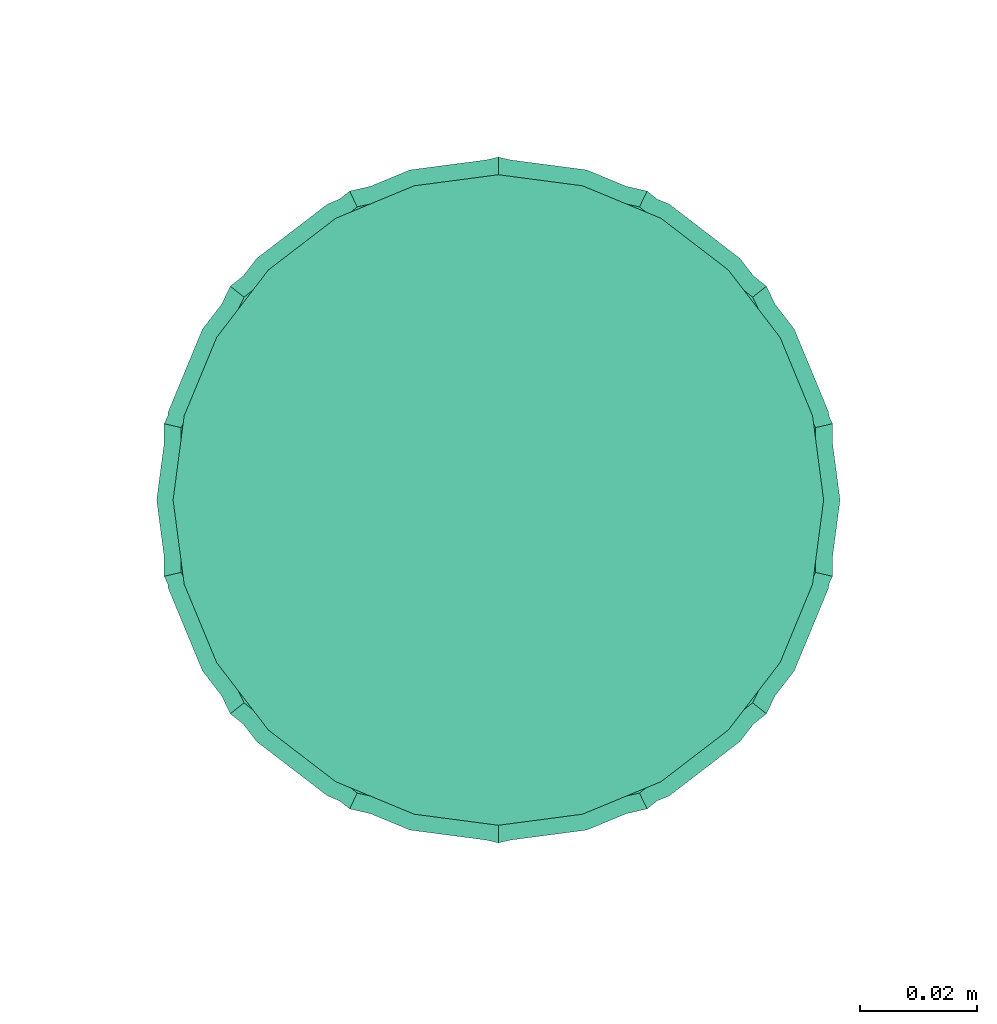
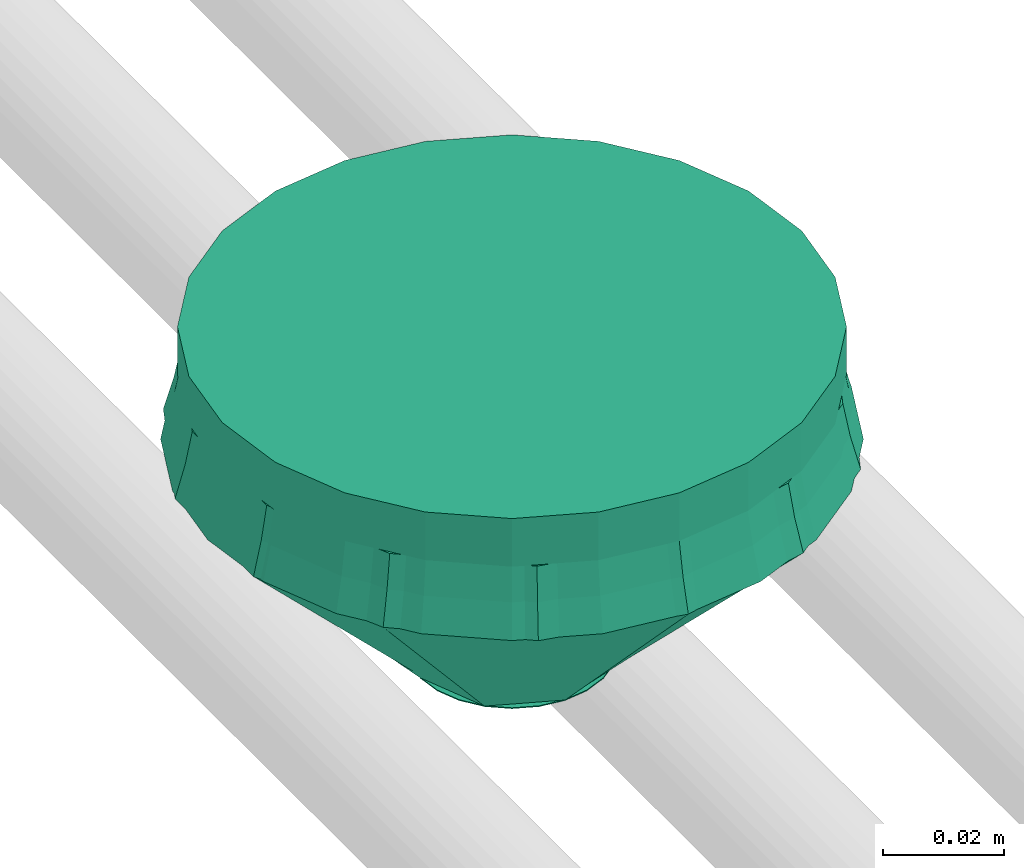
# One storey, part 3 of 51: 1 distribution control element.
"""IFC2X3 building model written with IfcOpenShell, lengths in millimetres."""

from ifc_helpers import new_model, entity, si_unit, converted_unit, derived_unit, direction, frame, origin_with_axes, place, context, subcontext, project, spatial, open_shell, surface_model, source, transform, mapped, type_object, element, save


model = new_model("IFC2X3")

# Units and contexts
model_context = context("Model", 3, precision=0.01, world=frame((0.0, 4.29681676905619e-09, 0.0)), true_north=direction((4.01073788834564e-13, 1.0)))
plan_context = context("Plan", 3, precision=0.01, world=frame((0.0, 4.29681676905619e-09, 0.0)), true_north=direction((4.01073788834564e-13, 1.0)))
body_context = subcontext(model_context, "Body", "Model", "MODEL_VIEW")
ifc_project = project(units=[converted_unit("PLANEANGLEUNIT", "DEGREE", entity("IfcPositiveLengthMeasure", 0.0174532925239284), si_unit("PLANEANGLEUNIT", "RADIAN"), dimensions=[0, 0, 0, 0, 0, 0, 0]), si_unit("AREAUNIT", "SQUARE_METRE"), si_unit("LENGTHUNIT", "METRE", prefix="MILLI"), si_unit("MASSUNIT", "GRAM", prefix="KILO"), si_unit("POWERUNIT", "WATT"), si_unit("PRESSUREUNIT", "PASCAL"), si_unit("FORCEUNIT", "NEWTON", prefix="KILO"), si_unit("ELECTRICVOLTAGEUNIT", "VOLT"), si_unit("ELECTRICCURRENTUNIT", "AMPERE"), si_unit("THERMODYNAMICTEMPERATUREUNIT", "DEGREE_CELSIUS"), si_unit("TIMEUNIT", "SECOND"), si_unit("VOLUMEUNIT", "CUBIC_METRE"), derived_unit("LINEARVELOCITYUNIT", [(si_unit("LENGTHUNIT", "METRE"), 1), (si_unit("TIMEUNIT", "SECOND"), -1)]), derived_unit("VOLUMETRICFLOWRATEUNIT", [(si_unit("VOLUMEUNIT", "CUBIC_METRE"), 1), (si_unit("TIMEUNIT", "SECOND"), -1)]), derived_unit("THERMALTRANSMITTANCEUNIT", [(si_unit("POWERUNIT", "WATT"), 1), (si_unit("THERMODYNAMICTEMPERATUREUNIT", "KELVIN"), -1), (si_unit("AREAUNIT", "SQUARE_METRE"), -1)]), derived_unit("SOUNDPRESSUREUNIT", [(si_unit("PRESSUREUNIT", "PASCAL"), 1)])], contexts=[model_context, plan_context])

# Site, building, storey
site_placement = place(None, frame((0.0, -4.29681676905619e-09, 0.0), z_axis=(0.0, 0.0, 1.0), x_axis=(1.0, 0.0, 0.0)))
site = spatial("IfcSite", under=ifc_project, at=site_placement, Name="ENGM", CompositionType="ELEMENT")
building_placement = place(site_placement, frame((0.0, 4.29681676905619e-09, 0.0), z_axis=(0.0, 0.0, 1.0), x_axis=(1.0, 0.0, 0.0)))
building = spatial("IfcBuilding", under=site, at=building_placement, Name="TI", CompositionType="ELEMENT")
storey_placement = place(building_placement, frame((0.0, 0.0, 210900.0), z_axis=(0.0, 0.0, 1.0), x_axis=(1.0, 0.0, 0.0)))
storey = spatial("IfcBuildingStorey", under=building, at=storey_placement, Name="Nivå F", CompositionType="ELEMENT", Elevation=210900.0)

# Distribution control element
alarm_type = type_object("IfcAlarmType", Name="Standard", PredefinedType="NOTDEFINED")
shared_shape = source(origin_with_axes(), body_context, "Body", "SurfaceModel", [
    surface_model("IfcShellBasedSurfaceModel", [(8.775, -15.19875, -64.9), (-12.40972, -12.40972, -64.9), (4.54227, -16.952, -64.9), (15.19875, -8.775, -64.9), (12.40972, -12.40972, -64.9), (16.952, -4.54227, -64.9), (-4.54227, 16.952, -64.9), (-16.952, -4.54227, -64.9), (0.0, -17.55, -64.9), (-8.775, -15.19875, -64.9), (-4.54227, -16.952, -64.9), (-15.19875, -8.775, -64.9), (17.55, 0.0, -64.9), (15.19875, 8.775, -64.9), (16.952, 4.54227, -64.9), (0.0, 17.55, -64.9), (12.40972, 12.40972, -64.9), (4.54227, 16.952, -64.9), (8.775, 15.19875, -64.9), (-17.55, 0.0, -64.9), (-15.19875, 8.775, -64.9), (-16.952, 4.54227, -64.9), (-12.40972, 12.40972, -64.9), (-8.775, 15.19875, -64.9), (16.952, 4.54227, -65.1), (0.0, 17.55, -65.1), (4.54227, 16.952, -65.1), (12.40972, 12.40972, -65.1), (8.775, 15.19875, -65.1), (15.19875, 8.775, -65.1), (-12.40972, 12.40972, -65.1), (-4.54227, 16.952, -65.1), (-8.775, 15.19875, -65.1), (-15.19875, 8.775, -65.1), (-17.55, 0.0, -65.1), (-16.952, 4.54227, -65.1), (-16.952, -4.54227, -65.1), (16.952, -4.54227, -65.1), (8.775, -15.19875, -65.1), (15.19875, -8.775, -65.1), (12.40972, -12.40972, -65.1), (-12.40972, -12.40972, -65.1), (4.54227, -16.952, -65.1), (-15.19875, -8.775, -65.1), (-8.775, -15.19875, -65.1), (0.0, -17.55, -65.1), (-4.54227, -16.952, -65.1), (17.55, 0.0, -65.1), (-36.47415, 45.73714, -22.75), (-52.70668, 25.3822, -22.75), (-58.5, 0.0, -22.75), (52.70668, 25.3822, -22.75), (13.01748, 57.03328, -22.75), (-13.01748, 57.03328, -22.75), (36.47415, 45.73714, -22.75), (-52.70668, -25.3822, -22.75), (-36.47415, -45.73714, -22.75), (-13.01748, -57.03328, -22.75), (36.47415, -45.73714, -22.75), (52.70668, -25.3822, -22.75), (58.5, 0.0, -22.75), (13.01748, -57.03328, -22.75), (0.0, 17.55, -65.0), (12.40972, 12.40972, -65.0), (-12.40972, 12.40972, -65.0), (-12.40972, -12.40972, -65.0), (-17.55, 0.0, -65.0), (17.55, 0.0, -65.0), (12.40972, -12.40972, -65.0), (0.0, -17.55, -65.0), (-44.59042, -35.55967, -22.75), (-13.69479, -9.30729, -65.0), (55.60334, -12.6911, -22.75), (14.97986, -6.20486, -65.0), (16.26493, -3.10243, -65.0), (-9.30729, -13.69479, -65.0), (-6.20486, -14.97986, -65.0), (-24.74581, -51.38521, -22.75), (-14.97986, -6.20486, -65.0), (24.74581, -51.38521, -22.75), (9.30729, -13.69479, -65.0), (-55.60334, -12.6911, -22.75), (-16.26493, -3.10243, -65.0), (-3.10243, -16.26493, -65.0), (3.10243, -16.26493, -65.0), (0.0, -57.03328, -22.75), (44.59042, -35.55967, -22.75), (13.69479, -9.30729, -65.0), (6.20486, -14.97986, -65.0), (44.59042, 35.55967, -22.75), (13.69479, 9.30729, -65.0), (-55.60334, 12.6911, -22.75), (-14.97986, 6.20486, -65.0), (-16.26493, 3.10243, -65.0), (9.30729, 13.69479, -65.0), (6.20486, 14.97986, -65.0), (24.74581, 51.38521, -22.75), (14.97986, 6.20486, -65.0), (-24.74581, 51.38521, -22.75), (-9.30729, 13.69479, -65.0), (55.60334, 12.6911, -22.75), (16.26493, 3.10243, -65.0), (3.10243, 16.26493, -65.0), (-3.10243, 16.26493, -65.0), (0.0, 57.03328, -22.75), (-44.59042, 35.55967, -22.75), (-13.69479, 9.30729, -65.0), (-6.20486, 14.97986, -65.0), (-28.275, 48.97374, -16.25), (-32.41056, 45.80041, -16.25), (-13.88456, 54.72206, -16.25), (-49.79102, 26.30191, -16.25), (-39.98689, 39.98689, -16.25), (-48.97374, 28.275, -16.25), (-37.1285, 42.18021, -16.25), (-35.38305, 44.36894, -16.25), (-56.2774, 2.07059, -16.25), (-56.75, 0.0, -16.25), (-56.55, 0.0, -16.25), (-51.91976, 21.16268, -16.25), (-51.12998, 24.6229, -16.25), (-54.62311, 14.63622, -16.25), (28.275, 48.97374, -16.25), (14.63622, 54.62311, -16.25), (13.88456, 54.72206, -16.25), (54.62311, -14.63622, -16.25), (56.2774, -2.07059, -16.25), (51.91976, -21.16268, -16.25), (12.62806, 55.32716, -16.25), (9.2884, 55.32716, -16.25), (49.79102, 26.30191, -16.25), (39.98689, 39.98689, -16.25), (37.1285, 42.18021, -16.25), (56.55, 0.0, -16.25), (56.75, 0.0, -16.25), (56.2774, 2.07059, -16.25), (39.98689, -39.98689, -16.25), (49.79102, -26.30191, -16.25), (37.1285, -42.18021, -16.25), (35.38305, 44.36894, -16.25), (32.41056, 45.80041, -16.25), (35.38305, -44.36894, -16.25), (32.41056, -45.80041, -16.25), (-56.2774, -2.07059, -16.25), (-49.79102, -26.30191, -16.25), (-51.91976, -21.16268, -16.25), (-51.12998, -24.6229, -16.25), (-37.1285, -42.18021, -16.25), (-35.38305, -44.36894, -16.25), (-32.41056, -45.80041, -16.25), (-13.88456, -54.72206, -16.25), (-28.275, -48.97374, -16.25), (-14.63622, -54.62311, -16.25), (51.12998, -24.6229, -16.25), (-39.98689, -39.98689, -16.25), (-48.97374, -28.275, -16.25), (-9.2884, 55.32716, -16.25), (-12.62806, 55.32716, -16.25), (28.275, -48.97374, -16.25), (13.88456, -54.72206, -16.25), (14.63622, -54.62311, -16.25), (48.97374, -28.275, -16.25), (12.62806, -55.32716, -16.25), (9.2884, -55.32716, -16.25), (0.0, -56.55, -16.25), (-9.2884, -55.32716, -16.25), (-12.62806, -55.32716, -16.25), (-54.62311, -14.63622, -16.25), (-14.63622, 54.62311, -16.25), (0.0, 56.55, -16.25), (48.97374, 28.275, -16.25), (51.91976, 21.16268, -16.25), (51.12998, 24.6229, -16.25), (54.62311, 14.63622, -16.25), (29.15, 50.48928, -22.75), (33.43697, 47.19977, -22.75), (14.29509, 56.41801, -22.75), (51.34019, 27.09572, -22.75), (41.22432, 41.22432, -22.75), (50.48928, 29.15, -22.75), (58.0274, 2.07059, -22.75), (58.3, 0.0, -22.75), (38.25759, 43.50078, -22.75), (-33.43697, 47.19977, -22.75), (-38.25759, 43.50078, -22.75), (56.31348, 15.08915, -22.75), (53.51269, 21.85086, -22.75), (-14.29509, -56.41801, -22.75), (-9.62167, -57.03328, -22.75), (-29.15, 50.48928, -22.75), (-15.08915, 56.31348, -22.75), (-14.29509, 56.41801, -22.75), (-56.31348, -15.08915, -22.75), (-58.0274, -2.07059, -22.75), (-53.51269, -21.85086, -22.75), (-9.62167, 57.03328, -22.75), (-51.34019, 27.09572, -22.75), (-41.22432, 41.22432, -22.75), (-41.22432, -41.22432, -22.75), (-51.34019, -27.09572, -22.75), (-38.25759, -43.50078, -22.75), (-58.3, 0.0, -22.75), (-58.0274, 2.07059, -22.75), (58.0274, -2.07059, -22.75), (-33.43697, -47.19977, -22.75), (51.34019, -27.09572, -22.75), (53.51269, -21.85086, -22.75), (41.22432, -41.22432, -22.75), (38.25759, -43.50078, -22.75), (29.15, -50.48928, -22.75), (15.08915, -56.31348, -22.75), (14.29509, -56.41801, -22.75), (9.62167, -57.03328, -22.75), (33.43697, -47.19977, -22.75), (50.48928, -29.15, -22.75), (9.62167, 57.03328, -22.75), (-29.15, -50.48928, -22.75), (-15.08915, -56.31348, -22.75), (-50.48928, -29.15, -22.75), (0.0, -58.3, -22.75), (56.31348, -15.08915, -22.75), (15.08915, 56.31348, -22.75), (0.0, 58.3, -22.75), (-50.48928, 29.15, -22.75), (-53.51269, 21.85086, -22.75), (-56.31348, 15.08915, -22.75), (53.15004, -15.77246, -16.25), (43.25652, -34.49592, -16.25), (-54.78902, -16.25884, -22.75), (-53.93999, -12.31145, -16.25), (24.00555, -49.84805, -16.25), (0.0, -55.32716, -16.25), (-24.00555, -49.84805, -16.25), (-43.25652, -34.49592, -16.25), (-53.15004, 15.77246, -16.25), (-43.25652, 34.49592, -16.25), (54.78902, 16.25884, -22.75), (53.93999, 12.31145, -16.25), (-24.00555, 49.84805, -16.25), (0.0, 55.32716, -16.25), (24.00555, 49.84805, -16.25), (43.25652, 34.49592, -16.25), (-27.65, 47.8912, -9.75), (-31.6774, 44.80087, -9.75), (-13.59132, 53.51067, -9.75), (-48.68446, 25.73491, -9.75), (-39.103, 39.103, -9.75), (-47.8912, 27.65, -9.75), (-34.60368, 43.39165, -9.75), (-36.322, 41.23694, -9.75), (-55.0274, 2.07059, -9.75), (-55.5, 0.0, -9.75), (-55.3, 0.0, -9.75), (-50.00377, 24.08055, -9.75), (-50.78195, 20.67112, -9.75), (-53.4157, 14.31269, -9.75), (27.65, 47.8912, -9.75), (14.31269, 53.4157, -9.75), (13.59132, 53.51067, -9.75), (53.4157, -14.31269, -9.75), (55.0274, -2.07059, -9.75), (50.78195, -20.67112, -9.75), (9.05035, 54.1085, -9.75), (12.34991, 54.1085, -9.75), (48.68446, 25.73491, -9.75), (39.103, 39.103, -9.75), (36.322, 41.23694, -9.75), (39.103, -39.103, -9.75), (48.68446, -25.73491, -9.75), (36.322, -41.23694, -9.75), (34.60368, 43.39165, -9.75), (31.6774, 44.80087, -9.75), (55.0274, 2.07059, -9.75), (55.3, 0.0, -9.75), (55.5, 0.0, -9.75), (34.60368, -43.39165, -9.75), (31.6774, -44.80087, -9.75), (-55.0274, -2.07059, -9.75), (-48.68446, -25.73491, -9.75), (-50.78195, -20.67112, -9.75), (-50.00377, -24.08055, -9.75), (-12.34991, -54.1085, -9.75), (-9.05035, -54.1085, -9.75), (-13.59132, -53.51067, -9.75), (-27.65, -47.8912, -9.75), (-14.31269, -53.4157, -9.75), (50.00377, -24.08055, -9.75), (-31.6774, -44.80087, -9.75), (-39.103, -39.103, -9.75), (-36.322, -41.23694, -9.75), (-47.8912, -27.65, -9.75), (-9.05035, 54.1085, -9.75), (-12.34991, 54.1085, -9.75), (27.65, -47.8912, -9.75), (13.59132, -53.51067, -9.75), (14.31269, -53.4157, -9.75), (47.8912, -27.65, -9.75), (0.0, -55.3, -9.75), (9.05035, -54.1085, -9.75), (12.34991, -54.1085, -9.75), (-34.60368, -43.39165, -9.75), (-53.4157, -14.31269, -9.75), (-14.31269, 53.4157, -9.75), (0.0, 55.3, -9.75), (47.8912, 27.65, -9.75), (50.78195, 20.67112, -9.75), (50.00377, 24.08055, -9.75), (53.4157, 14.31269, -9.75), (51.93259, -15.62982, -9.75), (42.30373, -33.7361, -9.75), (-53.10225, -15.98184, -16.25), (-52.75189, -12.04027, -9.75), (23.4768, -48.75007, -9.75), (53.93999, -12.31145, -16.25), (0.0, -54.1085, -9.75), (-23.4768, -48.75007, -9.75), (-42.30373, -33.7361, -9.75), (-51.93259, 15.62982, -9.75), (-42.30373, 33.7361, -9.75), (53.10225, 15.98184, -16.25), (52.75189, 12.04027, -9.75), (-23.4768, 48.75007, -9.75), (-53.93999, 12.31145, -16.25), (0.0, 54.1085, -9.75), (23.4768, 48.75007, -9.75), (42.30373, 33.7361, -9.75), (14.36446, -53.60888, 0.0), (27.75, -48.06441, 0.0), (39.24443, -39.24443, 0.0), (0.0, -55.5, 0.0), (48.06441, -27.75, 0.0), (53.60888, -14.36446, 0.0), (55.5, 0.0, 0.0), (-27.75, -48.06441, 0.0), (-14.36446, -53.60888, 0.0), (-48.06441, -27.75, 0.0), (-39.24443, -39.24443, 0.0), (-53.60888, -14.36446, 0.0), (48.06441, 27.75, 0.0), (14.36446, 53.60888, 0.0), (39.24443, 39.24443, 0.0), (0.0, 55.5, 0.0), (27.75, 48.06441, 0.0), (-27.75, 48.06441, 0.0), (-55.5, 0.0, 0.0), (-48.06441, 27.75, 0.0), (-53.60888, 14.36446, 0.0), (-39.24443, 39.24443, 0.0), (-14.36446, 53.60888, 0.0), (53.60888, 14.36446, 0.0), (14.36446, 53.60888, -9.75), (-27.75, 48.06441, -9.75), (0.0, 55.5, -9.75), (39.24443, 39.24443, -9.75), (27.75, 48.06441, -9.75), (48.06441, 27.75, -9.75), (53.60888, 14.36446, -9.75), (-48.06441, 27.75, -9.75), (-39.24443, 39.24443, -9.75), (-14.36446, 53.60888, -9.75), (-53.60888, 14.36446, -9.75), (53.60888, -14.36446, -9.75), (48.06441, -27.75, -9.75), (-53.60888, -14.36446, -9.75), (39.24443, -39.24443, -9.75), (27.75, -48.06441, -9.75), (14.36446, -53.60888, -9.75), (-27.75, -48.06441, -9.75), (-48.06441, -27.75, -9.75), (-39.24443, -39.24443, -9.75), (0.0, -55.5, -9.75), (-14.36446, -53.60888, -9.75)], [open_shell([[[0, 1, 2]], [[3, 0, 4]], [[0, 5, 1]], [[5, 0, 3]], [[5, 6, 7]], [[8, 9, 10]], [[9, 8, 1]], [[1, 7, 11]], [[1, 8, 2]], [[5, 7, 1]], [[5, 12, 6]], [[13, 6, 14]], [[15, 13, 16]], [[17, 15, 16]], [[17, 16, 18]], [[6, 13, 15]], [[19, 20, 21]], [[19, 7, 20]], [[22, 6, 23]], [[7, 22, 20]], [[6, 22, 7]], [[12, 14, 6]], [[24, 25, 26]], [[27, 26, 28]], [[29, 24, 26]], [[29, 26, 27]], [[25, 24, 30]], [[31, 30, 32]], [[31, 25, 30]], [[33, 34, 35]], [[36, 34, 33]], [[33, 30, 36]], [[30, 24, 37]], [[36, 30, 37]], [[38, 37, 39]], [[36, 37, 38]], [[38, 39, 40]], [[41, 38, 42]], [[36, 41, 43]], [[36, 38, 41]], [[44, 45, 46]], [[45, 44, 41]], [[42, 45, 41]], [[37, 24, 47]], [[36, 7, 34]], [[43, 11, 36]], [[9, 41, 44]], [[43, 41, 1]], [[10, 44, 46]], [[36, 11, 7]], [[7, 19, 34]], [[10, 9, 44]], [[1, 41, 9]], [[1, 11, 43]], [[8, 10, 46]], [[46, 45, 8]], [[42, 2, 45]], [[38, 0, 42]], [[3, 40, 39]], [[38, 40, 4]], [[5, 39, 37]], [[38, 4, 0]], [[0, 2, 42]], [[12, 5, 37]], [[3, 39, 5]], [[3, 4, 40]], [[47, 12, 37]], [[45, 2, 8]], [[24, 14, 47]], [[29, 13, 24]], [[18, 27, 28]], [[29, 27, 16]], [[17, 28, 26]], [[24, 13, 14]], [[14, 12, 47]], [[17, 18, 28]], [[16, 27, 18]], [[16, 13, 29]], [[15, 17, 26]], [[26, 25, 15]], [[31, 6, 25]], [[32, 23, 31]], [[20, 30, 33]], [[32, 30, 22]], [[21, 33, 35]], [[32, 22, 23]], [[23, 6, 31]], [[19, 21, 35]], [[20, 33, 21]], [[20, 22, 30]], [[34, 19, 35]], [[25, 6, 15]], [[48, 49, 50]], [[48, 50, 51]], [[52, 53, 51]], [[51, 54, 52]], [[53, 48, 51]], [[50, 55, 51]], [[55, 56, 57]], [[57, 58, 51]], [[59, 60, 58]], [[60, 51, 58]], [[57, 61, 58]], [[51, 55, 57]], [[62, 63, 64]], [[65, 66, 64]], [[64, 63, 65]], [[67, 68, 69]], [[69, 65, 67]], [[67, 65, 63]], [[65, 70, 71]], [[72, 73, 74]], [[75, 76, 77]], [[55, 78, 71]], [[79, 80, 58]], [[78, 55, 81]], [[81, 82, 78]], [[57, 76, 83]], [[84, 85, 69]], [[59, 73, 72]], [[55, 71, 70]], [[69, 85, 83]], [[60, 74, 67]], [[68, 86, 58]], [[86, 68, 87]], [[56, 65, 75]], [[87, 59, 86]], [[60, 72, 74]], [[65, 56, 70]], [[66, 82, 50]], [[50, 82, 81]], [[56, 75, 77]], [[80, 79, 88]], [[61, 84, 88]], [[80, 68, 58]], [[87, 73, 59]], [[76, 57, 77]], [[85, 84, 61]], [[57, 83, 85]], [[79, 61, 88]], [[63, 89, 90]], [[91, 92, 93]], [[94, 95, 96]], [[51, 97, 90]], [[98, 99, 48]], [[97, 51, 100]], [[100, 101, 97]], [[52, 95, 102]], [[103, 104, 62]], [[49, 92, 91]], [[51, 90, 89]], [[62, 104, 102]], [[50, 93, 66]], [[64, 105, 48]], [[105, 64, 106]], [[54, 63, 94]], [[106, 49, 105]], [[50, 91, 93]], [[63, 54, 89]], [[67, 101, 60]], [[60, 101, 100]], [[54, 94, 96]], [[99, 98, 107]], [[53, 103, 107]], [[99, 64, 48]], [[106, 92, 49]], [[95, 52, 96]], [[104, 103, 53]], [[52, 102, 104]], [[98, 53, 107]], [[108, 109, 110]], [[111, 112, 113]], [[114, 109, 115]], [[116, 117, 118]], [[119, 111, 120]], [[121, 116, 119]], [[122, 123, 124]], [[125, 126, 127]], [[128, 129, 124]], [[130, 131, 132]], [[133, 134, 135]], [[136, 137, 138]], [[132, 139, 140]], [[141, 138, 142]], [[112, 111, 114]], [[117, 143, 118]], [[144, 145, 146]], [[147, 148, 149]], [[150, 151, 152]], [[127, 137, 153]], [[151, 150, 149]], [[154, 147, 144]], [[154, 144, 155]], [[110, 156, 157]], [[158, 159, 160]], [[133, 126, 134]], [[161, 137, 136]], [[162, 159, 163]], [[164, 163, 165]], [[158, 142, 159]], [[150, 166, 165]], [[167, 145, 143]], [[108, 110, 168]], [[169, 156, 129]], [[122, 124, 140]], [[131, 130, 170]], [[130, 171, 172]], [[173, 171, 135]], [[174, 175, 176]], [[177, 178, 179]], [[180, 60, 181]], [[54, 182, 175]], [[48, 183, 184]], [[185, 180, 186]], [[57, 187, 188]], [[189, 190, 191]], [[192, 193, 194]], [[195, 191, 53]], [[196, 197, 184]], [[198, 199, 200]], [[51, 186, 177]], [[201, 50, 202]], [[203, 181, 60]], [[178, 177, 182]], [[204, 56, 200]], [[205, 206, 59]], [[205, 207, 208]], [[209, 210, 211]], [[212, 211, 61]], [[209, 211, 213]], [[194, 199, 55]], [[207, 205, 214]], [[215, 52, 176]], [[216, 187, 217]], [[201, 193, 50]], [[198, 218, 199]], [[208, 58, 213]], [[219, 188, 212]], [[204, 187, 216]], [[220, 206, 203]], [[174, 176, 221]], [[222, 215, 195]], [[189, 191, 183]], [[197, 196, 223]], [[196, 224, 49]], [[225, 224, 202]], [[153, 59, 226]], [[141, 86, 227]], [[228, 146, 229]], [[162, 79, 230]], [[134, 226, 72]], [[72, 60, 134]], [[226, 59, 72]], [[230, 58, 141]], [[59, 153, 227]], [[141, 58, 86]], [[85, 231, 166]], [[166, 57, 85]], [[148, 77, 232]], [[56, 233, 70]], [[146, 70, 233]], [[57, 232, 77]], [[146, 55, 70]], [[50, 229, 117]], [[162, 61, 79]], [[232, 57, 166]], [[58, 230, 79]], [[146, 228, 55]], [[56, 148, 233]], [[59, 227, 86]], [[148, 56, 77]], [[162, 231, 61]], [[50, 228, 229]], [[61, 231, 85]], [[120, 49, 234]], [[115, 105, 235]], [[236, 172, 237]], [[157, 98, 238]], [[117, 234, 91]], [[91, 50, 117]], [[234, 49, 91]], [[238, 48, 115]], [[49, 120, 235]], [[115, 48, 105]], [[104, 239, 128]], [[128, 52, 104]], [[139, 96, 240]], [[54, 241, 89]], [[172, 89, 241]], [[52, 240, 96]], [[172, 51, 89]], [[60, 237, 134]], [[157, 53, 98]], [[240, 52, 128]], [[48, 238, 98]], [[172, 236, 51]], [[54, 139, 241]], [[49, 235, 105]], [[139, 54, 96]], [[157, 239, 53]], [[60, 236, 237]], [[53, 239, 104]], [[125, 133, 181]], [[125, 220, 161]], [[158, 136, 207]], [[214, 136, 161]], [[160, 158, 209]], [[220, 125, 181]], [[214, 161, 220]], [[207, 209, 158]], [[136, 214, 207]], [[210, 160, 209]], [[210, 219, 164]], [[160, 210, 164]], [[151, 152, 217]], [[151, 216, 154]], [[167, 155, 218]], [[198, 155, 154]], [[118, 167, 192]], [[152, 219, 217]], [[151, 217, 216]], [[155, 198, 218]], [[118, 192, 201]], [[192, 167, 218]], [[198, 154, 216]], [[164, 219, 152]], [[121, 118, 201]], [[121, 225, 113]], [[108, 112, 197]], [[223, 112, 113]], [[168, 108, 189]], [[225, 121, 201]], [[223, 113, 225]], [[197, 189, 108]], [[112, 223, 197]], [[190, 168, 189]], [[190, 222, 169]], [[168, 190, 169]], [[122, 123, 221]], [[122, 174, 131]], [[173, 170, 179]], [[178, 170, 131]], [[133, 173, 185]], [[123, 222, 221]], [[122, 221, 174]], [[170, 178, 179]], [[133, 185, 181]], [[185, 173, 179]], [[178, 131, 174]], [[169, 222, 123]], [[242, 243, 244]], [[245, 246, 247]], [[243, 248, 249]], [[250, 251, 252]], [[253, 254, 245]], [[255, 250, 254]], [[256, 257, 258]], [[259, 260, 261]], [[262, 258, 263]], [[264, 265, 266]], [[267, 268, 269]], [[266, 270, 271]], [[272, 273, 274]], [[275, 269, 276]], [[246, 245, 249]], [[277, 252, 251]], [[278, 279, 280]], [[281, 282, 283]], [[283, 284, 285]], [[261, 268, 286]], [[284, 283, 287]], [[288, 289, 278]], [[288, 278, 290]], [[244, 291, 292]], [[293, 294, 295]], [[273, 260, 274]], [[268, 267, 296]], [[294, 293, 276]], [[297, 298, 282]], [[298, 299, 294]], [[300, 287, 289]], [[301, 279, 277]], [[242, 244, 302]], [[303, 291, 262]], [[256, 258, 271]], [[265, 264, 304]], [[264, 305, 306]], [[307, 305, 272]], [[122, 140, 124]], [[170, 130, 131]], [[135, 134, 133]], [[140, 139, 132]], [[172, 171, 130]], [[173, 135, 171]], [[110, 157, 156]], [[108, 168, 110]], [[167, 143, 145]], [[114, 111, 112]], [[154, 144, 147]], [[115, 109, 114]], [[116, 118, 117]], [[150, 165, 166]], [[131, 130, 132]], [[126, 133, 134]], [[137, 127, 153]], [[145, 144, 146]], [[159, 158, 160]], [[163, 159, 162]], [[158, 159, 142]], [[136, 138, 137]], [[136, 137, 161]], [[124, 129, 128]], [[151, 150, 152]], [[118, 143, 117]], [[155, 144, 154]], [[147, 149, 148]], [[164, 165, 163]], [[151, 149, 150]], [[138, 141, 142]], [[125, 127, 126]], [[122, 124, 123]], [[169, 129, 156]], [[108, 110, 109]], [[112, 111, 113]], [[111, 119, 120]], [[121, 119, 116]], [[286, 153, 308]], [[275, 227, 309]], [[310, 280, 311]], [[299, 230, 312]], [[274, 308, 313]], [[313, 134, 274]], [[308, 153, 313]], [[312, 141, 275]], [[153, 286, 309]], [[275, 141, 227]], [[231, 314, 281]], [[281, 166, 231]], [[300, 232, 315]], [[148, 316, 233]], [[280, 233, 316]], [[166, 315, 232]], [[280, 146, 233]], [[117, 311, 251]], [[299, 162, 230]], [[315, 166, 281]], [[141, 312, 230]], [[280, 310, 146]], [[148, 300, 316]], [[153, 309, 227]], [[300, 148, 232]], [[299, 314, 162]], [[117, 310, 311]], [[162, 314, 231]], [[253, 120, 317]], [[248, 235, 318]], [[319, 306, 320]], [[292, 238, 321]], [[251, 317, 322]], [[322, 117, 251]], [[317, 120, 322]], [[321, 115, 248]], [[120, 253, 318]], [[248, 115, 235]], [[239, 323, 263]], [[263, 128, 239]], [[270, 240, 324]], [[139, 325, 241]], [[306, 241, 325]], [[128, 324, 240]], [[306, 172, 241]], [[134, 320, 274]], [[292, 157, 238]], [[324, 128, 263]], [[115, 321, 238]], [[306, 319, 172]], [[139, 270, 325]], [[120, 318, 235]], [[270, 139, 240]], [[292, 323, 157]], [[134, 319, 320]], [[157, 323, 239]], [[259, 273, 133]], [[259, 125, 296]], [[293, 267, 136]], [[161, 267, 296]], [[295, 293, 158]], [[125, 259, 133]], [[161, 296, 125]], [[136, 158, 293]], [[267, 161, 136]], [[160, 295, 158]], [[160, 164, 297]], [[295, 160, 297]], [[284, 285, 152]], [[284, 151, 288]], [[301, 290, 155]], [[154, 290, 288]], [[252, 301, 167]], [[285, 164, 152]], [[284, 152, 151]], [[290, 154, 155]], [[252, 167, 118]], [[167, 301, 155]], [[154, 288, 151]], [[297, 164, 285]], [[255, 252, 118]], [[255, 121, 247]], [[242, 246, 112]], [[113, 246, 247]], [[302, 242, 108]], [[121, 255, 118]], [[113, 247, 121]], [[112, 108, 242]], [[246, 113, 112]], [[168, 302, 108]], [[168, 169, 303]], [[302, 168, 303]], [[256, 257, 123]], [[256, 122, 265]], [[307, 304, 170]], [[131, 304, 265]], [[273, 307, 173]], [[257, 169, 123]], [[256, 123, 122]], [[304, 131, 170]], [[273, 173, 133]], [[173, 307, 170]], [[131, 265, 122]], [[303, 169, 257]], [[326, 327, 328]], [[329, 326, 328]], [[330, 331, 332]], [[329, 328, 330]], [[333, 330, 332]], [[329, 333, 334]], [[329, 330, 333]], [[333, 335, 336]], [[335, 333, 337]], [[332, 337, 333]], [[332, 338, 337]], [[337, 338, 339]], [[339, 338, 340]], [[339, 341, 337]], [[339, 340, 342]], [[343, 337, 341]], [[344, 345, 346]], [[337, 345, 344]], [[345, 343, 347]], [[343, 345, 337]], [[341, 348, 343]], [[338, 332, 349]], [[350, 351, 352]], [[353, 350, 354]], [[355, 356, 350]], [[355, 350, 353]], [[357, 350, 356]], [[351, 357, 358]], [[351, 359, 352]], [[357, 251, 360]], [[357, 351, 350]], [[251, 357, 356]], [[356, 274, 251]], [[274, 361, 362]], [[363, 274, 362]], [[364, 365, 366]], [[362, 364, 363]], [[366, 367, 364]], [[368, 367, 369]], [[368, 363, 364]], [[367, 370, 371]], [[368, 364, 367]], [[366, 370, 367]], [[274, 363, 251]], [[363, 337, 251]], [[368, 335, 363]], [[333, 369, 367]], [[368, 369, 336]], [[334, 367, 371]], [[363, 335, 337]], [[337, 344, 251]], [[334, 333, 367]], [[336, 369, 333]], [[336, 335, 368]], [[329, 334, 371]], [[371, 370, 329]], [[366, 326, 370]], [[365, 327, 366]], [[330, 364, 362]], [[365, 364, 328]], [[331, 362, 361]], [[365, 328, 327]], [[327, 326, 366]], [[332, 331, 361]], [[330, 362, 331]], [[330, 328, 364]], [[274, 332, 361]], [[370, 326, 329]], [[356, 349, 274]], [[355, 338, 356]], [[342, 353, 354]], [[355, 353, 340]], [[339, 354, 350]], [[356, 338, 349]], [[349, 332, 274]], [[339, 342, 354]], [[340, 353, 342]], [[340, 338, 355]], [[341, 339, 350]], [[350, 352, 341]], [[359, 348, 352]], [[351, 343, 359]], [[345, 358, 357]], [[351, 358, 347]], [[346, 357, 360]], [[351, 347, 343]], [[343, 348, 359]], [[344, 346, 360]], [[345, 357, 346]], [[345, 347, 358]], [[251, 344, 360]], [[352, 348, 341]]])]),
])
distribution_control_element_placement = place(storey_placement, frame((608254.0, 692285.0, 2400.0), z_axis=(0.0, 0.0, 1.0), x_axis=(0.0, 1.0, 0.0)))
element("IfcDistributionControlElement", 1, at=distribution_control_element_placement, inside=storey, type_object=alarm_type, Name="Standard", context=body_context, shape_type="MappedRepresentation", body=[
    mapped(shared_shape, transform((0.0, 0.0, 0.0), scale=1.0)),
])

save(model, "model.ifc")
